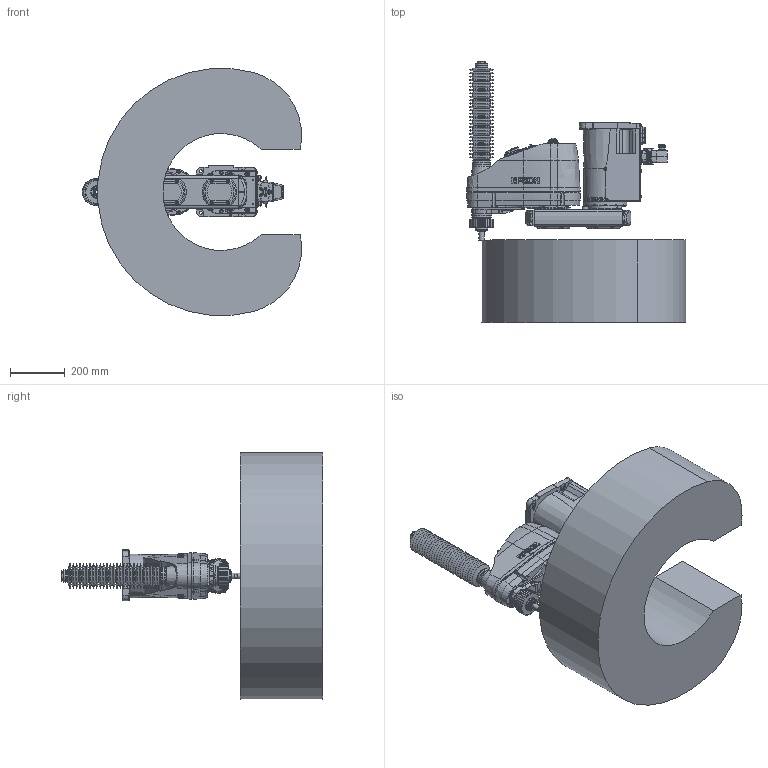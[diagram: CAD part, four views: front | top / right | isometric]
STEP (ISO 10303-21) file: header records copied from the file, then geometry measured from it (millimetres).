
FILE_DESCRIPTION( ( 'STEP AP214' ), '1' );
FILE_NAME( 'C:/Users/9607552/Desktop/GX8-B453PR_langle.stp', '2023-07-07T01:50:59', ( '' ), ( '' ), ' ', 'PARTsolutions', ' ' );
FILE_SCHEMA( ( 'AUTOMOTIVE_DESIGN { 1 0 10303 214 1 1 1 1 }' ) );
Length unit declared in the file: millimetre
Products named in the file (11): GX8-B453PRA-W; _B452PR_BASE; _B452CR; _B452CR_1; _B452CR_2; _B452P_J2; _B453CZA; _2-B-long; _2-B-short; _Angle-B; _GX8-11-1-B_WS
Assembly tree (12 placements, depth 2):
  GX8-B453PRA-W
    _B452PR_BASE
    _B452CR
    _B452CR_1  x2
    _B452CR_2  x2
    _B452P_J2
    _B453CZA
    _2-B-long
    _2-B-short
    _Angle-B
    _GX8-11-1-B_WS
Bounding box: 797.24 x 950.5 x 896.58 mm (x, y, z)
Volume: 137654077.1 mm3; surface area: 3335594.1 mm2
Topology: 12 solids, 16 shells, 3443 faces, 8213 edges, 5303 vertices
Faces by surface type: plane 1662, cylinder 1147, cone 438, torus 154, bspline 37, sphere 5
Full cylindrical faces by diameter (mm): 1 x24, 1.18 x55, 1.2 x24, 2.261 x4, 2.459 x4, 3 x32, 3.242 x18, 3.3 x4, 3.9 x4, 4.2 x8, 4.5 x12, 4.8 x4, 5.34 x4, 5.5 x25, 6 x5, 6.2 x4, 6.4 x1, 6.647 x4, 6.8 x2, 7 x48, 7.4 x1, 8 x5, 8.5 x6, 9 x24, 10 x18, 11 x4, 11.2 x7, 12 x5, 12.2 x1, 12.25 x1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
Entity records: 121236 total; most frequent: CARTESIAN_POINT 22156, DIRECTION 15242, ORIENTED_EDGE 13474, EDGE_CURVE 6737, AXIS2_PLACEMENT_3D 5977, VERTEX_POINT 4921, EDGE_LOOP 4752, FACE_OUTER_BOUND 3914
